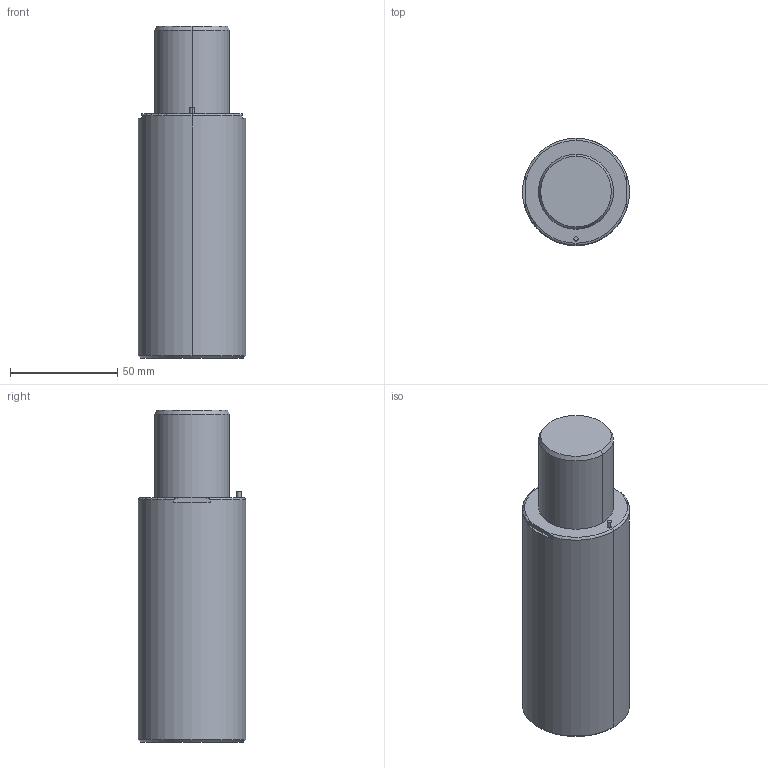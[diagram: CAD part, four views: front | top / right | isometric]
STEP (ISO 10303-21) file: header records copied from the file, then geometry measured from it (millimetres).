
FILE_DESCRIPTION(/* description */ (''),/* implementation_level */ '2;1');
FILE_NAME(/* name */ '3d_gsx50-38_03960_r00.stp',/* time_stamp */ '2011-01-10T14:15:12+09:00',/* author */ ('MISUMI'),/* organization */ (''),/* preprocessor_version */ 'ST-DEVELOPER v11',/* originating_system */ 'UGS - NX 5.0',/* authorisation */ '');
FILE_SCHEMA (('CONFIG_CONTROL_DESIGN'));
Length unit declared in the file: millimetre
Products named in the file (1): 3d_gsx50-38_03960_r00
Bounding box: 50 x 50 x 155 mm (x, y, z)
Volume: 259725 mm3; surface area: 27810.4 mm2
Topology: 1 solids, 1 shells, 59 faces, 130 edges, 78 vertices
Faces by surface type: cylinder 28, plane 15, cone 12, torus 4
Entity records: 1724 total; most frequent: CARTESIAN_POINT 320, DIRECTION 308, ORIENTED_EDGE 244, AXIS2_PLACEMENT_3D 130, EDGE_CURVE 122, VERTEX_POINT 78, EDGE_LOOP 72, CIRCLE 70
